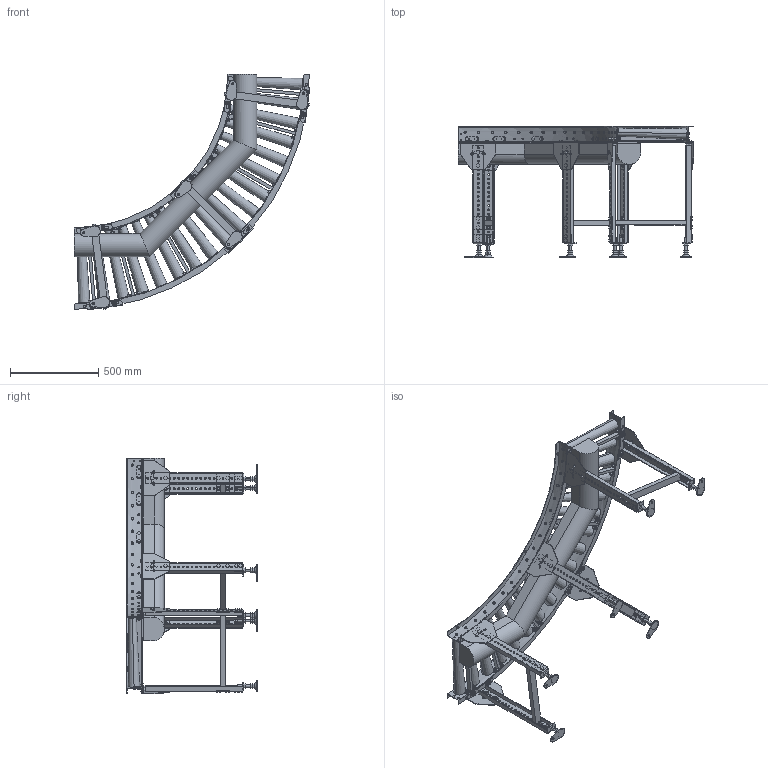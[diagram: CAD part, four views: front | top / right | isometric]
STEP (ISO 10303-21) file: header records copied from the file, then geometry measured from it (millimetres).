
FILE_DESCRIPTION (( 'STEP AP214' ), '1' );
FILE_NAME ('MCD50C9-90-400-100.STEP', '2022-08-01T07:48:49', ( '' ), ( '' ), 'SwSTEP 2.0', 'SolidWorks 2017', '' );
FILE_SCHEMA (( 'AUTOMOTIVE_DESIGN' ));
Length unit declared in the file: millimetre
Products named in the file (1): MCD50C9-90-400-100
Bounding box: 1333.03 x 740 x 1333.03 mm (x, y, z)
Volume: 45728778.4 mm3; surface area: 4750576.4 mm2
Topology: 28 solids, 58 shells, 3802 faces, 9104 edges, 5736 vertices
Faces by surface type: plane 2727, cylinder 1027, cone 48
Entity records: 161515 total; most frequent: CARTESIAN_POINT 28955, DIRECTION 19158, ORIENTED_EDGE 18208, EDGE_CURVE 9104, AXIS2_PLACEMENT_3D 6653, VECTOR 5852, LINE 5852, VERTEX_POINT 5736
